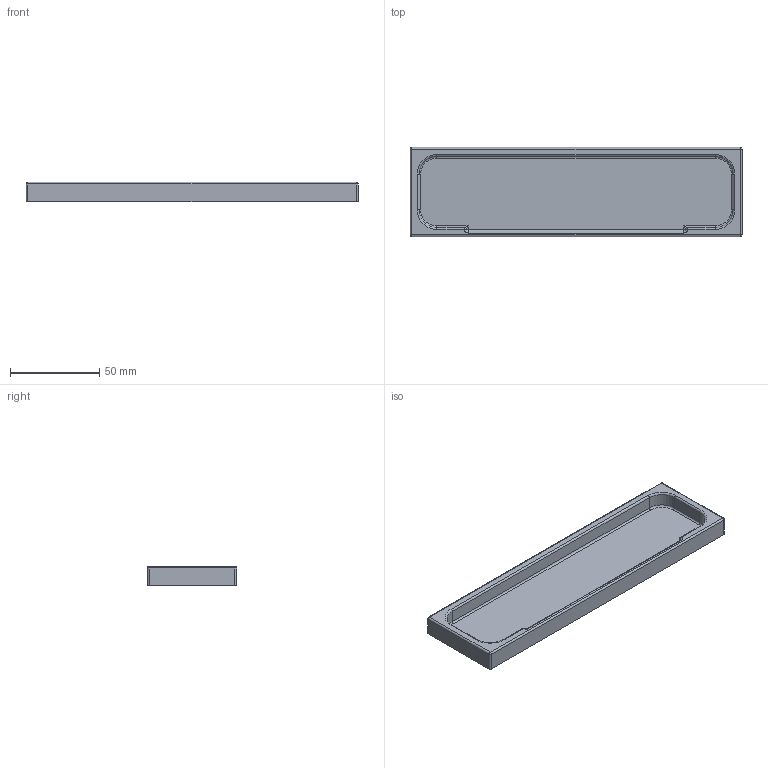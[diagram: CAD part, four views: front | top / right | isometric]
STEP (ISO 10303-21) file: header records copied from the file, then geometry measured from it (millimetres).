
FILE_DESCRIPTION(/* description */ (''),/* implementation_level */ '2;1');
FILE_NAME(/* name */ 'PSA_Switch2_GBA_Verified_STEP.step',/* time_stamp */ '2025-11-16T21:10:42-06:00',/* author */ (''),/* organization */ (''),/* preprocessor_version */ 'ST-DEVELOPER v20.1',/* originating_system */ 'Autodesk Translation Framework v14.21.0.0',/* authorisation */ '');
FILE_SCHEMA (('AUTOMOTIVE_DESIGN { 1 0 10303 214 3 1 1 }'));
Length unit declared in the file: millimetre
Products named in the file (1): PSA
Bounding box: 186 x 50 x 11 mm (x, y, z)
Volume: 37388.3 mm3; surface area: 26965 mm2
Topology: 1 solids, 1 shells, 63 faces, 134 edges, 72 vertices
Faces by surface type: cylinder 30, plane 13, torus 10, sphere 8, bspline 2
Entity records: 1739 total; most frequent: DIRECTION 328, CARTESIAN_POINT 326, ORIENTED_EDGE 264, AXIS2_PLACEMENT_3D 134, EDGE_CURVE 132, VERTEX_POINT 72, CIRCLE 68, EDGE_LOOP 64
